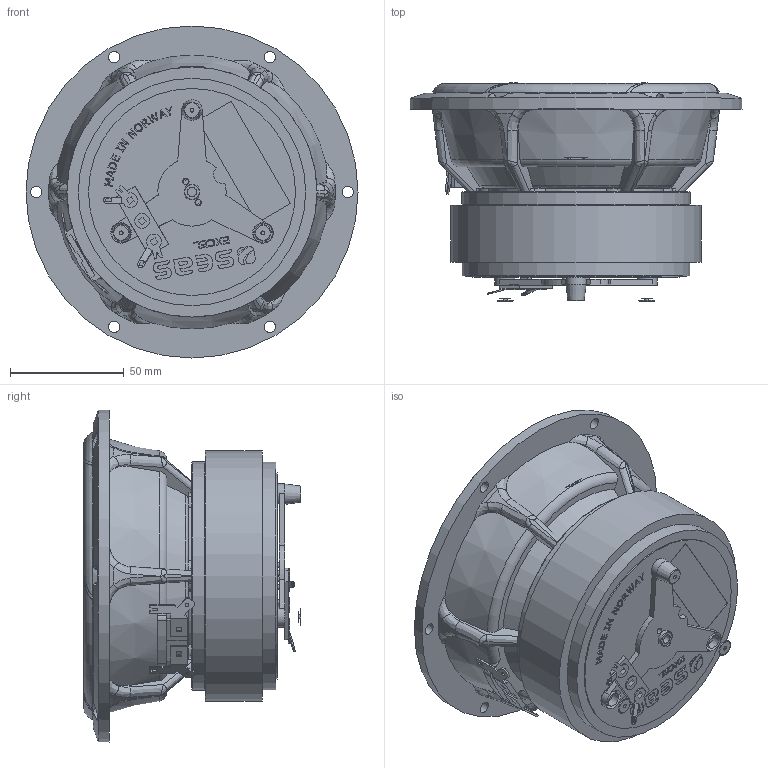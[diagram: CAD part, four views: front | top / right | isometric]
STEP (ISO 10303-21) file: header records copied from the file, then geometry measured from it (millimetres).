
FILE_DESCRIPTION(/* description */ (''),/* implementation_level */ '2;1');
FILE_NAME(/* name */ 'F:\Files\Tegning\STP FILER\E0121-04_06-C16NX001_X_Simplify_1.stp',/* time_stamp */ '2024-08-23T15:26:26+02:00',/* author */ ('haavard'),/* organization */ (''),/* preprocessor_version */ 'ST-DEVELOPER v18.1',/* originating_system */ 'Autodesk Inventor 2022',/* authorisation */ '');
FILE_SCHEMA (('CONFIG_CONTROL_DESIGN'));
Length unit declared in the file: millimetre
Products named in the file (1): E0121-04_06-C16NX001_X_Simplify_1
Bounding box: 146 x 95.79 x 146 mm (x, y, z)
Volume: 705379.1 mm3; surface area: 83342.3 mm2
Topology: 1 solids, 1 shells, 840 faces, 2275 edges, 1489 vertices
Faces by surface type: plane 467, bspline 163, cylinder 117, cone 51, torus 41, sphere 1
Full cylindrical faces by diameter (mm): 1.5 x2, 1.7 x3, 2 x4, 2.8 x2, 4.1 x1, 5 x6, 6.3 x3, 6.5 x1, 7 x1, 9 x4, 22 x1, 25.1 x1, 26 x1, 26.28 x1, 35.5 x1, 37 x1, 38.61 x1, 38.71 x1, 91 x1, 97 x1, 100 x1, 100.3 x1, 110 x1, 130.9 x1
Entity records: 32528 total; most frequent: CARTESIAN_POINT 11485, ORIENTED_EDGE 4550, DIRECTION 3547, EDGE_CURVE 2275, VERTEX_POINT 1489, LINE 1269, VECTOR 1269, AXIS2_PLACEMENT_3D 1139
